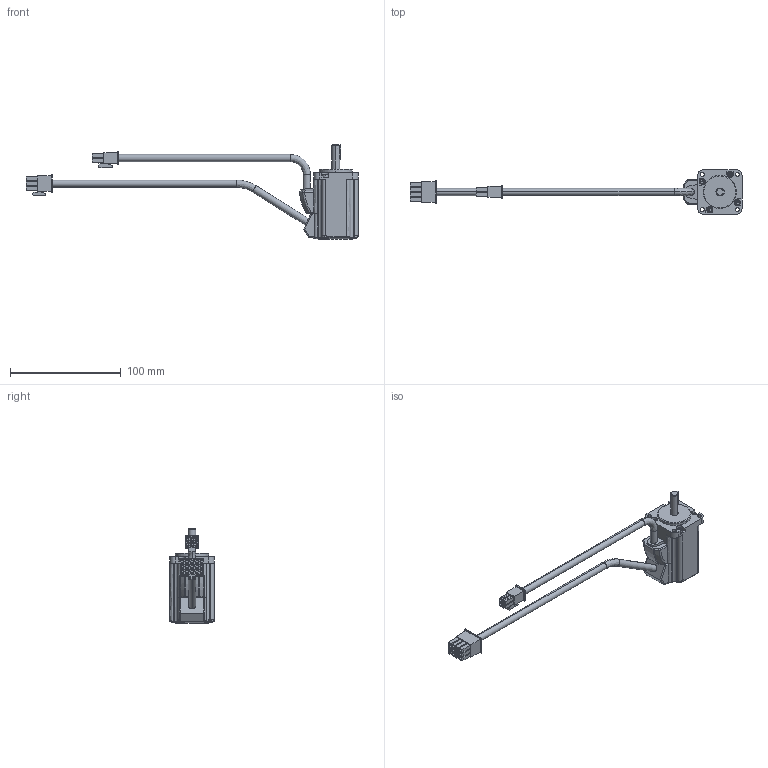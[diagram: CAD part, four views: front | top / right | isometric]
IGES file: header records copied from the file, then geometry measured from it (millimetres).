
Start section:  PTC IGES file: 10001000_rsmz-a3ba_no_brake.igs
Global section: file name: 10001000_rsmz-a3ba_no_brake.igs; native system: Pro/ENGINEER by Parametric Technology Corporation; preprocessor: 2004440; author: Administrator; organization: Unknown; date: 070829.201222; units: millimetre
Bounding box: 299.76 x 40 x 85 mm (x, y, z)
Volume: 113968.3 mm3; surface area: 29749.7 mm2
Topology: 1 solids, 1 shells, 492 faces, 1237 edges, 803 vertices
Faces by surface type: bspline 352, revolution 140
